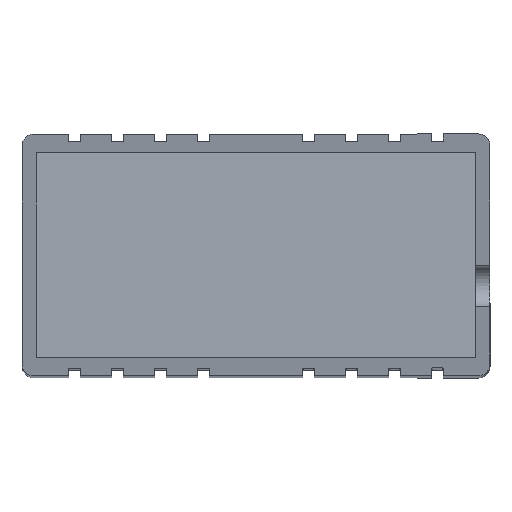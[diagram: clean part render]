
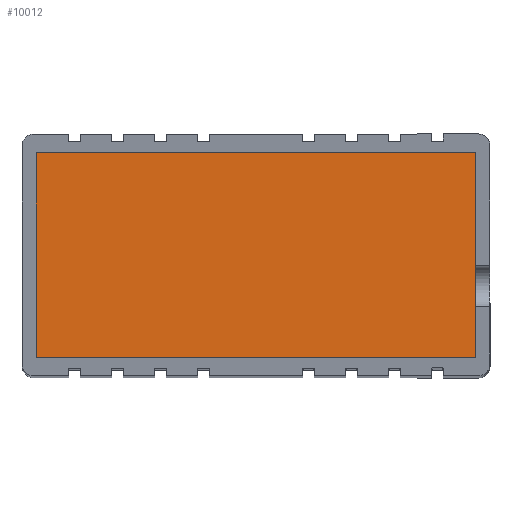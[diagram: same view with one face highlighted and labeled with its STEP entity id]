
A CAD part, top view. The second image highlights one B-rep face of the part: STEP entity #10012.
In plain terms, the highlighted planar face has unit normal (0, 0, 1).
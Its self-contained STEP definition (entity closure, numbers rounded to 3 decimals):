
#270=LINE($,#14143,#1202);
#271=LINE($,#14145,#1203);
#272=LINE($,#14147,#1204);
#273=LINE($,#14148,#1205);
#1202=VECTOR($,#11448,56.3);
#1203=VECTOR($,#11449,26.2);
#1204=VECTOR($,#11450,56.3);
#1205=VECTOR($,#11451,26.2);
#2133=PLANE($,#10545);
#2617=FACE_OUTER_BOUND($,#3115,.T.);
#3115=EDGE_LOOP($,(#6467,#6468,#6469,#6470));
#4105=VERTEX_POINT($,#14141);
#4106=VERTEX_POINT($,#14142);
#4107=VERTEX_POINT($,#14144);
#4108=VERTEX_POINT($,#14146);
#5043=EDGE_CURVE($,#4105,#4106,#270,.T.);
#5044=EDGE_CURVE($,#4107,#4105,#271,.T.);
#5045=EDGE_CURVE($,#4108,#4107,#272,.T.);
#5046=EDGE_CURVE($,#4106,#4108,#273,.T.);
#6467=ORIENTED_EDGE($,*,*,#5043,.F.);
#6468=ORIENTED_EDGE($,*,*,#5044,.F.);
#6469=ORIENTED_EDGE($,*,*,#5045,.F.);
#6470=ORIENTED_EDGE($,*,*,#5046,.F.);
#10012=ADVANCED_FACE($,(#2617),#2133,.F.);
#10545=AXIS2_PLACEMENT_3D($,#14140,#11446,#11447);
#11446=DIRECTION('center_axis',(0.,0.,
-1.));
#11447=DIRECTION('ref_axis',(-1.,0.,0.));
#11448=DIRECTION($,(-1.,0.,0.));
#11449=DIRECTION($,(0.,-1.,0.));
#11450=DIRECTION($,(1.,0.,0.));
#11451=DIRECTION($,(0.,1.,0.));
#14140=CARTESIAN_POINT('Origin',(-20.952,74.37,75.852));
#14141=CARTESIAN_POINT('',(7.198,61.27,75.852));
#14142=CARTESIAN_POINT('',(-49.102,61.27,75.852));
#14143=CARTESIAN_POINT($,(-35.027,61.27,75.852));
#14144=CARTESIAN_POINT('',(7.198,87.47,75.852));
#14145=CARTESIAN_POINT($,(7.198,67.82,75.852));
#14146=CARTESIAN_POINT('',(-49.102,87.47,75.852));
#14147=CARTESIAN_POINT($,(-6.877,87.47,75.852));
#14148=CARTESIAN_POINT($,(-49.102,80.92,75.852));
